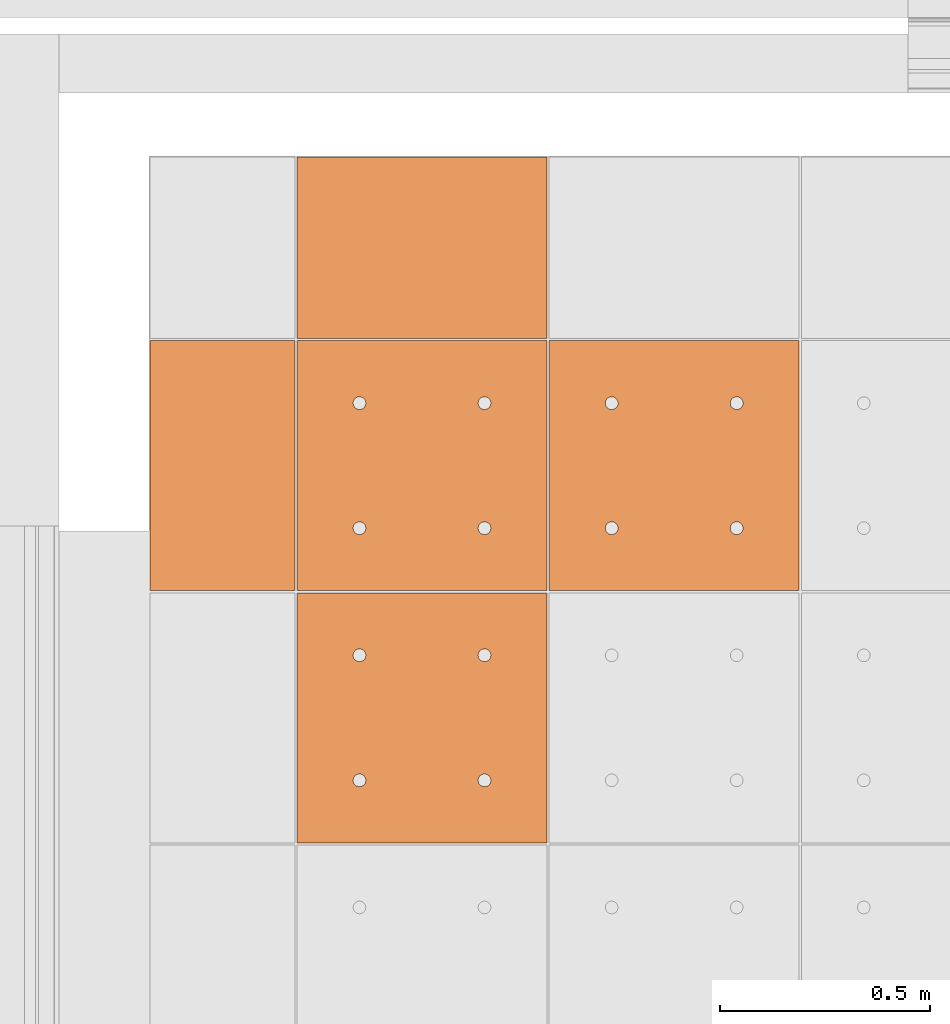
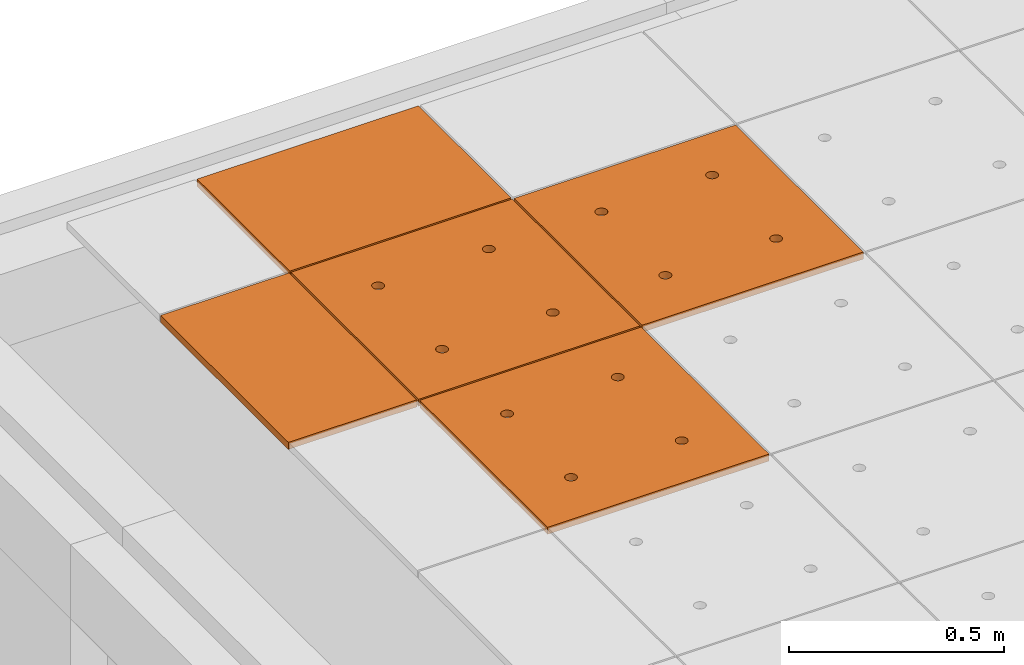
# One storey, part 248 of 338: 5 proxies, 1 element without a shape of its own.
"""IFC2X3 building model written with IfcOpenShell, lengths in millimetres."""

import ifcopenshell
import ifcopenshell.guid

model = None  # the IFC model being written
_history = None  # IfcOwnerHistory: only IFC2X3 demands one
_inside = {}  # id of a spatial element -> (the spatial element, [elements in it])
_under = {}  # id of a project, library or spatial element -> (it, [spatial elements below it])
_declared = {}  # id of a project -> (the project, [libraries it declares])
_typed = {}  # id of a type object -> (the type object, [elements of that type])
_made_of = {}  # id of a material, layer set ... -> (it, [elements and type objects made of it])


def new_model(schema):
    """Start an empty IFC model of exactly this schema.

    Asked for "IFC4X3", IfcOpenShell would pick the latest addendum, in which some entities
    have other attributes; the version numbers below select the first issue.
    IFC2X3 requires an IfcOwnerHistory on every rooted entity: one is made here for all.
    """
    global model, _history
    if schema == "IFC4X3":
        model = ifcopenshell.file(schema_version=(4, 3, 0, 0))
    else:
        model = ifcopenshell.file(schema=schema)
    _inside.clear()
    _under.clear()
    _declared.clear()
    _typed.clear()
    _made_of.clear()
    _history = None
    if model.schema == "IFC2X3":
        org = make("IfcOrganization", Name="unknown")
        user = make(
            "IfcPersonAndOrganization",
            ThePerson=make("IfcPerson", FamilyName="unknown"),
            TheOrganization=org,
        )
        app = make(
            "IfcApplication",
            ApplicationDeveloper=org,
            Version="unknown",
            ApplicationFullName="unknown",
            ApplicationIdentifier="unknown",
        )
        _history = make(
            "IfcOwnerHistory",
            OwningUser=user,
            OwningApplication=app,
            ChangeAction="ADDED",
            CreationDate=0,
        )
    return model


def make(cls, **values):
    """One entity of the class cls with the attributes given. An attribute that is None is left unset."""
    return model.create_entity(
        cls, **{name: value for name, value in values.items() if value is not None}
    )


def entity(cls, *values):
    """Any entity or typed value of the class cls, its attributes in the order of the schema. None: left unset."""
    e = model.create_entity(cls)
    for i, value in enumerate(values):
        if value is not None:
            e[i] = value
    return e


def rooted(cls, **values):
    """An entity with a GlobalId (a new one), such as an element, a storey or a relation."""
    return make(cls, GlobalId=ifcopenshell.guid.new(), OwnerHistory=_history, **values)


def si_unit(unit_type, name, prefix=None):
    """IfcSIUnit, for example si_unit("LENGTHUNIT", "METRE", prefix="MILLI")."""
    return make("IfcSIUnit", UnitType=unit_type, Prefix=prefix, Name=name)


def converted_unit(unit_type, name, factor, base, dimensions=None, offset=None):
    """IfcConversionBasedUnit, such as the inch: factor (a typed value) times the base unit."""
    return make(
        "IfcConversionBasedUnit"
        if offset is None
        else "IfcConversionBasedUnitWithOffset",
        ConversionOffset=offset,
        Dimensions=None
        if dimensions is None
        else entity("IfcDimensionalExponents", *dimensions),
        UnitType=unit_type,
        Name=name,
        ConversionFactor=make(
            "IfcMeasureWithUnit", ValueComponent=factor, UnitComponent=base
        ),
    )


def derived_unit(unit_type, elements):
    """IfcDerivedUnit: a product of units, each with its exponent."""
    return make(
        "IfcDerivedUnit",
        Elements=[
            make("IfcDerivedUnitElement", Unit=unit, Exponent=power)
            for unit, power in elements
        ],
        UnitType=unit_type,
    )


def money_unit(currency):
    """IfcMonetaryUnit."""
    return make("IfcMonetaryUnit", Currency=currency)


def assignment(units):
    """IfcUnitAssignment: the units of a project."""
    return None if units is None else make("IfcUnitAssignment", Units=units)


def point(xyz):
    """IfcCartesianPoint."""
    return None if xyz is None else make("IfcCartesianPoint", Coordinates=xyz)


def direction(xyz):
    """IfcDirection."""
    return None if xyz is None else make("IfcDirection", DirectionRatios=xyz)


def frame(location, z_axis=None, x_axis=None):
    """IfcAxis2Placement3D, a coordinate frame: its origin and axes. An axis left out is left unset."""
    return make(
        "IfcAxis2Placement3D",
        Location=point(location),
        Axis=direction(z_axis),
        RefDirection=direction(x_axis),
    )


def origin_with_axes():
    """The frame at (0, 0, 0) with the z axis (0, 0, 1) and the x axis (1, 0, 0) written out."""
    return frame((0.0, 0.0, 0.0), z_axis=(0.0, 0.0, 1.0), x_axis=(1.0, 0.0, 0.0))


def place(relative_to, where):
    """IfcLocalPlacement: puts the frame where relative to a parent placement (None: the world)."""
    return make(
        "IfcLocalPlacement", PlacementRelTo=relative_to, RelativePlacement=where
    )


def context(
    kind, dimensions, precision=None, world=None, true_north=None, identifier=None
):
    """IfcGeometricRepresentationContext, for example the 3D "Model" context."""
    return make(
        "IfcGeometricRepresentationContext",
        ContextIdentifier=identifier,
        ContextType=kind,
        CoordinateSpaceDimension=dimensions,
        Precision=precision,
        WorldCoordinateSystem=world,
        TrueNorth=true_north,
    )


def subcontext(parent, identifier, kind, view, scale=None):
    """IfcGeometricRepresentationSubContext, for example "Body" below "Model"."""
    return make(
        "IfcGeometricRepresentationSubContext",
        ContextIdentifier=identifier,
        ContextType=kind,
        ParentContext=parent,
        TargetScale=scale,
        TargetView=view,
    )


def project(units=None, contexts=None):
    """IfcProject with its units and contexts."""
    return rooted(
        "IfcProject",
        Name="project",
        RepresentationContexts=contexts,
        UnitsInContext=assignment(units),
    )


def spatial(cls, under=None, at=None, **own):
    """A site, building, storey or space (cls), placed at a placement, below another one or the project."""
    s = rooted(cls, ObjectPlacement=at, **own)
    if under is not None:
        _under.setdefault(under.id(), (under, []))[1].append(s)
    return s


def faces_of(points, faces, orient=None, outer=None):
    """IfcFace entities. A face is a list of loops; a loop is a list of indices into points, from 0.

    orient and outer hold one flag for each loop. By default every Orientation is true, the
    first loop of a face is its IfcFaceOuterBound and the others are IfcFaceBound.
    """
    made = []
    for i, loops in enumerate(faces):
        bounds = []
        for j, loop in enumerate(loops):
            is_outer = j == 0 if outer is None else outer[i][j]
            bounds.append(
                make(
                    "IfcFaceOuterBound" if is_outer else "IfcFaceBound",
                    Bound=make("IfcPolyLoop", Polygon=[points[k] for k in loop]),
                    Orientation=True if orient is None else orient[i][j],
                )
            )
        made.append(make("IfcFace", Bounds=bounds))
    return made


def faceted_brep(points, faces, orient=None, outer=None, voids=None):
    """IfcFacetedBrep: a solid bounded by flat faces; with voids (closed shells), ...WithVoids."""
    shared = [point(p) for p in points]
    hull = make("IfcClosedShell", CfsFaces=faces_of(shared, faces, orient, outer))
    if voids is None:
        return make("IfcFacetedBrep", Outer=hull)
    return make(
        "IfcFacetedBrepWithVoids",
        Outer=hull,
        Voids=[
            make(cls, CfsFaces=faces_of(shared, fs, o, b)) for cls, fs, o, b in voids
        ],
    )


def shape(context_of_items, identifier, shape_type, items):
    """IfcShapeRepresentation: the items that make up one representation, for example the "Body"."""
    return make(
        "IfcShapeRepresentation",
        ContextOfItems=context_of_items,
        RepresentationIdentifier=identifier,
        RepresentationType=shape_type,
        Items=items,
    )


def source(mapping_origin, context_of_items, identifier, shape_type, items):
    """IfcRepresentationMap: a shape defined once, which mapped items show again and again."""
    return make(
        "IfcRepresentationMap",
        MappingOrigin=mapping_origin,
        MappedRepresentation=shape(context_of_items, identifier, shape_type, items),
    )


def transform(
    local_origin,
    x_axis=None,
    y_axis=None,
    z_axis=None,
    scale=None,
    scale2=None,
    scale3=None,
    uniform=True,
):
    """IfcCartesianTransformationOperator3D, or its non-uniform kind. x_axis, y_axis, z_axis: its Axis1, 2, 3."""
    if uniform:
        return make(
            "IfcCartesianTransformationOperator3D",
            Axis1=direction(x_axis),
            Axis2=direction(y_axis),
            LocalOrigin=point(local_origin),
            Scale=scale,
            Axis3=direction(z_axis),
        )
    return make(
        "IfcCartesianTransformationOperator3DnonUniform",
        Axis1=direction(x_axis),
        Axis2=direction(y_axis),
        LocalOrigin=point(local_origin),
        Scale=scale,
        Axis3=direction(z_axis),
        Scale2=scale2,
        Scale3=scale3,
    )


def mapped(mapping_source, mapping_target):
    """IfcMappedItem: shows the shape of a source again, moved by a transform."""
    return make(
        "IfcMappedItem", MappingSource=mapping_source, MappingTarget=mapping_target
    )


def material(Name=None, Category=None):
    """IfcMaterial."""
    return make("IfcMaterial", Name=Name, Category=Category)


def made_of(thing, what):
    """Note that an element or type object is made of a material, layer set ...; save() writes the relation."""
    if what is not None:
        _made_of.setdefault(what.id(), (what, []))[1].append(thing)
    return thing


def type_object(cls, material=None, **own):
    """A type object (cls), such as IfcWallType, which elements share."""
    return made_of(rooted(cls, **own), material)


def type_shapes(of_type, sources):
    """Give a type object the sources (RepresentationMaps) that its elements show as mapped items."""
    of_type.RepresentationMaps = sources


def element(
    cls,
    number,
    at=None,
    inside=None,
    cuts=None,
    type_object=None,
    material=None,
    context=None,
    identifier="Body",
    shape_type=None,
    held_by="IfcProductDefinitionShape",
    body=None,
    shapes=None,
    **own,
):
    """One element of the class cls, such as IfcWall. Its Tag is "e" and its number.

    at: its placement. inside: the storey or other place that contains it. cuts: it is an
    opening in that element (IfcRelVoidsElement). A single representation is given by context,
    identifier, shape_type and body (its items); several are given by shapes. held_by: the class
    of the entity that holds the representations. save() writes the other relations.
    """
    e = rooted(cls, Tag="e%d" % number, ObjectPlacement=at, **own)
    if body is not None:
        shapes = [shape(context, identifier, shape_type, body)]
    if shapes is not None:
        e.Representation = make(held_by, Representations=shapes)
    if inside is not None:
        _inside.setdefault(inside.id(), (inside, []))[1].append(e)
    if cuts is not None:
        rooted(
            "IfcRelVoidsElement", RelatingBuildingElement=cuts, RelatedOpeningElement=e
        )
    if type_object is not None:
        _typed.setdefault(type_object.id(), (type_object, []))[1].append(e)
    return made_of(e, material)


def aggregate(whole, parts):
    """IfcRelAggregates: a whole, such as a stair, and the parts it consists of."""
    return rooted("IfcRelAggregates", RelatingObject=whole, RelatedObjects=parts)


def save(model, path):
    """Write the relations noted so far, then the file.

    IfcRelAggregates (storeys below a building ...), IfcRelContainedInSpatialStructure (elements
    in a storey), IfcRelDefinesByType, IfcRelAssociatesMaterial and IfcRelDeclares: one each for
    every whole, place, type object, material and project.
    """
    for whole, parts in _under.values():
        aggregate(whole, parts)
    for where, things in _inside.values():
        rooted(
            "IfcRelContainedInSpatialStructure",
            RelatedElements=things,
            RelatingStructure=where,
        )
    for kind, things in _typed.values():
        rooted("IfcRelDefinesByType", RelatedObjects=things, RelatingType=kind)
    for what, things in _made_of.values():
        rooted("IfcRelAssociatesMaterial", RelatedObjects=things, RelatingMaterial=what)
    for by, libraries in _declared.values():
        rooted("IfcRelDeclares", RelatingContext=by, RelatedDefinitions=libraries)
    model.write(path)


model = new_model("IFC2X3")

# Units and contexts
model_context = context("Model", 3, precision=0.01, world=origin_with_axes(), true_north=direction((0.0, 1.0)))
plan_context = context("Plan", 3, precision=0.01, world=origin_with_axes(), true_north=direction((0.0, 1.0)))
body_context = subcontext(model_context, "Body", "Model", "MODEL_VIEW")
ifc_project = project(units=[si_unit("LENGTHUNIT", "METRE", prefix="MILLI"), si_unit("AREAUNIT", "SQUARE_METRE"), si_unit("VOLUMEUNIT", "CUBIC_METRE"), converted_unit("PLANEANGLEUNIT", "DEGREE", entity("IfcPlaneAngleMeasure", 0.0174532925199), si_unit("PLANEANGLEUNIT", "RADIAN"), dimensions=[0, 0, 0, 0, 0, 0, 0]), money_unit("EUR"), converted_unit("TIMEUNIT", "Year", entity("IfcTimeMeasure", 31556926.0), si_unit("TIMEUNIT", "SECOND"), dimensions=[0, 0, 1, 0, 0, 0, 0]), si_unit("MASSUNIT", "GRAM", prefix="KILO"), si_unit("THERMODYNAMICTEMPERATUREUNIT", "DEGREE_CELSIUS"), si_unit("LUMINOUSINTENSITYUNIT", "LUMEN"), si_unit("ENERGYUNIT", "JOULE", prefix="MEGA"), derived_unit("THERMALCONDUCTANCEUNIT", [(si_unit("POWERUNIT", "WATT"), 1), (si_unit("LENGTHUNIT", "METRE"), -1), (si_unit("THERMODYNAMICTEMPERATUREUNIT", "KELVIN"), -1)]), derived_unit("SPECIFICHEATCAPACITYUNIT", [(si_unit("ENERGYUNIT", "JOULE"), 1), (si_unit("MASSUNIT", "GRAM", prefix="KILO"), -1), (si_unit("THERMODYNAMICTEMPERATUREUNIT", "KELVIN"), -1)]), derived_unit("MASSDENSITYUNIT", [(si_unit("MASSUNIT", "GRAM", prefix="KILO"), 1), (si_unit("VOLUMEUNIT", "CUBIC_METRE"), -1)])], contexts=[model_context, plan_context])

# Site, building, storey
site_placement = place(None, origin_with_axes())
site = spatial("IfcSite", under=ifc_project, at=site_placement, Name="Fortuinstraat Woensdrecht", CompositionType="ELEMENT")
building_placement = place(site_placement, origin_with_axes())
building = spatial("IfcBuilding", under=site, at=building_placement, Name="IKC Fortuna", CompositionType="ELEMENT")
storey_placement = place(building_placement, origin_with_axes())
storey = spatial("IfcBuildingStorey", under=building, at=storey_placement, Name="00 begane grond", CompositionType="ELEMENT", Elevation=0.0)

# Covering, proxies
covering_type = type_object("IfcCoveringType", Name="Curtain Wall Type", PredefinedType="CEILING")
covering_placement = place(storey_placement, frame((15059.4416165, 34009.703821, 3210.0), z_axis=(0.0, 0.0, 1.0), x_axis=(1.0, 0.0, 0.0)))
covering = element("IfcCovering", 1, at=covering_placement, inside=storey, type_object=covering_type, Name="45_Plafondafwerking_P01", PredefinedType="CEILING")
ifc_material = material(Name="Gipsplaat")
building_element_proxy_type_1 = type_object("IfcBuildingElementProxyType", Name="Distinct Panel 600 x 600 x 20", PredefinedType="NOTDEFINED")
shared_shape_1 = source(origin_with_axes(), body_context, "Body", "Brep", [
    faceted_brep([(2.49999999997, 2.49999999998, -10.0), (300.0, 2.49999999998, -10.0), (300.0, 2.49999999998, 10.0), (2.49999999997, 2.49999999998, 10.0), (2.49999999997, 300.0, -10.0), (2.49999999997, 597.5, -10.0), (300.0, 597.5, -10.0), (597.5, 597.5, -10.0), (597.5, 300.0, -10.0), (597.5, 2.49999999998, -10.0), (166.25, 450.06232995, -10.0), (165.79423259, 452.64711538, -10.0), (164.896546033, 455.11348892, -10.0), (163.58421608, 457.38651108, -10.0), (161.897117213, 459.39711721, -10.0), (159.886511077, 461.08421608, -10.0), (157.613488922, 462.39654603, -10.0), (155.147115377, 463.29423259, -10.0), (152.562329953, 463.75, -10.0), (149.937670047, 463.75, -10.0), (147.352884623, 463.29423259, -10.0), (144.886511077, 462.39654603, -10.0), (142.613488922, 461.08421608, -10.0), (140.602882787, 459.39711721, -10.0), (138.91578392, 457.38651108, -10.0), (137.603453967, 455.11348892, -10.0), (136.705767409, 452.64711538, -10.0), (136.25, 450.06232995, -10.0), (136.25, 448.75, -10.0), (136.25, 447.43767005, -10.0), (136.705767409, 444.85288462, -10.0), (137.603453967, 442.38651108, -10.0), (138.91578392, 440.11348892, -10.0), (140.602882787, 438.10288279, -10.0), (142.613488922, 436.41578392, -10.0), (144.886511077, 435.10345397, -10.0), (147.352884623, 434.20576741, -10.0), (149.937670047, 433.75, -10.0), (152.562329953, 433.75, -10.0), (155.147115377, 434.20576741, -10.0), (157.613488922, 435.10345397, -10.0), (159.886511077, 436.41578392, -10.0), (161.897117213, 438.10288279, -10.0), (163.58421608, 440.11348892, -10.0), (164.896546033, 442.38651108, -10.0), (165.79423259, 444.85288462, -10.0), (166.25, 447.43767005, -10.0), (463.75, 450.06232995, -10.0), (463.29423259, 452.64711538, -10.0), (462.396546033, 455.11348892, -10.0), (461.08421608, 457.38651108, -10.0), (459.397117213, 459.39711721, -10.0), (457.386511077, 461.08421608, -10.0), (455.113488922, 462.39654603, -10.0), (452.647115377, 463.29423259, -10.0), (450.062329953, 463.75, -10.0), (447.437670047, 463.75, -10.0), (444.852884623, 463.29423259, -10.0), (442.386511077, 462.39654603, -10.0), (440.113488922, 461.08421608, -10.0), (438.102882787, 459.39711721, -10.0), (436.41578392, 457.38651108, -10.0), (435.103453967, 455.11348892, -10.0), (434.205767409, 452.64711538, -10.0), (433.75, 450.06232995, -10.0), (433.75, 448.75, -10.0), (433.75, 447.43767005, -10.0), (434.205767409, 444.85288462, -10.0), (435.103453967, 442.38651108, -10.0), (436.41578392, 440.11348892, -10.0), (438.102882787, 438.10288279, -10.0), (440.113488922, 436.41578392, -10.0), (442.386511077, 435.10345397, -10.0), (444.852884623, 434.20576741, -10.0), (447.437670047, 433.75, -10.0), (450.062329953, 433.75, -10.0), (452.647115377, 434.20576741, -10.0), (455.113488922, 435.10345397, -10.0), (457.386511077, 436.41578392, -10.0), (459.397117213, 438.10288279, -10.0), (461.08421608, 440.11348892, -10.0), (462.396546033, 442.38651108, -10.0), (463.29423259, 444.85288462, -10.0), (463.75, 447.43767005, -10.0), (463.75, 152.56232995, -10.0), (463.29423259, 155.14711538, -10.0), (462.396546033, 157.61348892, -10.0), (461.08421608, 159.88651108, -10.0), (459.397117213, 161.89711721, -10.0), (457.386511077, 163.58421608, -10.0), (455.113488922, 164.89654603, -10.0), (452.647115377, 165.79423259, -10.0), (450.062329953, 166.25, -10.0), (447.437670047, 166.25, -10.0), (444.852884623, 165.79423259, -10.0), (442.386511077, 164.89654603, -10.0), (440.113488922, 163.58421608, -10.0), (438.102882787, 161.89711721, -10.0), (436.41578392, 159.88651108, -10.0), (435.103453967, 157.61348892, -10.0), (434.205767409, 155.14711538, -10.0), (433.75, 152.56232995, -10.0), (433.75, 151.25, -10.0), (433.75, 149.93767005, -10.0), (434.205767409, 147.35288462, -10.0), (435.103453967, 144.88651108, -10.0), (436.41578392, 142.61348892, -10.0), (438.102882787, 140.60288279, -10.0), (440.113488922, 138.91578392, -10.0), (442.386511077, 137.60345397, -10.0), (444.852884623, 136.70576741, -10.0), (447.437670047, 136.25, -10.0), (450.062329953, 136.25, -10.0), (452.647115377, 136.70576741, -10.0), (455.113488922, 137.60345397, -10.0), (457.386511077, 138.91578392, -10.0), (459.397117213, 140.60288279, -10.0), (461.08421608, 142.61348892, -10.0), (462.396546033, 144.88651108, -10.0), (463.29423259, 147.35288462, -10.0), (463.75, 149.93767005, -10.0), (166.25, 152.56232995, -10.0), (165.79423259, 155.14711538, -10.0), (164.896546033, 157.61348892, -10.0), (163.58421608, 159.88651108, -10.0), (161.897117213, 161.89711721, -10.0), (159.886511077, 163.58421608, -10.0), (157.613488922, 164.89654603, -10.0), (155.147115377, 165.79423259, -10.0), (152.562329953, 166.25, -10.0), (149.937670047, 166.25, -10.0), (147.352884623, 165.79423259, -10.0), (144.886511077, 164.89654603, -10.0), (142.613488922, 163.58421608, -10.0), (140.602882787, 161.89711721, -10.0), (138.91578392, 159.88651108, -10.0), (137.603453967, 157.61348892, -10.0), (136.705767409, 155.14711538, -10.0), (136.25, 152.56232995, -10.0), (136.25, 151.25, -10.0), (136.25, 149.93767005, -10.0), (136.705767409, 147.35288462, -10.0), (137.603453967, 144.88651108, -10.0), (138.91578392, 142.61348892, -10.0), (140.602882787, 140.60288279, -10.0), (142.613488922, 138.91578392, -10.0), (144.886511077, 137.60345397, -10.0), (147.352884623, 136.70576741, -10.0), (149.937670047, 136.25, -10.0), (152.562329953, 136.25, -10.0), (155.147115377, 136.70576741, -10.0), (157.613488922, 137.60345397, -10.0), (159.886511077, 138.91578392, -10.0), (161.897117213, 140.60288279, -10.0), (163.58421608, 142.61348892, -10.0), (164.896546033, 144.88651108, -10.0), (165.79423259, 147.35288462, -10.0), (166.25, 149.93767005, -10.0), (597.5, 2.49999999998, 10.0), (597.5, 300.0, 10.0), (597.5, 597.5, 10.0), (300.0, 597.5, 10.0), (2.49999999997, 597.5, 10.0), (2.49999999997, 300.0, 10.0), (166.25, 450.06232995, 10.0), (166.25, 447.43767005, 10.0), (165.79423259, 444.85288462, 10.0), (164.896546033, 442.38651108, 10.0), (163.58421608, 440.11348892, 10.0), (161.897117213, 438.10288279, 10.0), (159.886511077, 436.41578392, 10.0), (157.613488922, 435.10345397, 10.0), (155.147115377, 434.20576741, 10.0), (152.562329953, 433.75, 10.0), (149.937670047, 433.75, 10.0), (147.352884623, 434.20576741, 10.0), (144.886511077, 435.10345397, 10.0), (142.613488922, 436.41578392, 10.0), (140.602882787, 438.10288279, 10.0), (138.91578392, 440.11348892, 10.0), (137.603453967, 442.38651108, 10.0), (136.705767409, 444.85288462, 10.0), (136.25, 447.43767005, 10.0), (136.25, 448.75, 10.0), (136.25, 450.06232995, 10.0), (136.705767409, 452.64711538, 10.0), (137.603453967, 455.11348892, 10.0), (138.91578392, 457.38651108, 10.0), (140.602882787, 459.39711721, 10.0), (142.613488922, 461.08421608, 10.0), (144.886511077, 462.39654603, 10.0), (147.352884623, 463.29423259, 10.0), (149.937670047, 463.75, 10.0), (152.562329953, 463.75, 10.0), (155.147115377, 463.29423259, 10.0), (157.613488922, 462.39654603, 10.0), (159.886511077, 461.08421608, 10.0), (161.897117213, 459.39711721, 10.0), (163.58421608, 457.38651108, 10.0), (164.896546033, 455.11348892, 10.0), (165.79423259, 452.64711538, 10.0), (463.75, 450.06232995, 10.0), (463.75, 447.43767005, 10.0), (463.29423259, 444.85288462, 10.0), (462.396546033, 442.38651108, 10.0), (461.08421608, 440.11348892, 10.0), (459.397117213, 438.10288279, 10.0), (457.386511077, 436.41578392, 10.0), (455.113488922, 435.10345397, 10.0), (452.647115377, 434.20576741, 10.0), (450.062329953, 433.75, 10.0), (447.437670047, 433.75, 10.0), (444.852884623, 434.20576741, 10.0), (442.386511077, 435.10345397, 10.0), (440.113488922, 436.41578392, 10.0), (438.102882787, 438.10288279, 10.0), (436.41578392, 440.11348892, 10.0), (435.103453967, 442.38651108, 10.0), (434.205767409, 444.85288462, 10.0), (433.75, 447.43767005, 10.0), (433.75, 448.75, 10.0), (433.75, 450.06232995, 10.0), (434.205767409, 452.64711538, 10.0), (435.103453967, 455.11348892, 10.0), (436.41578392, 457.38651108, 10.0), (438.102882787, 459.39711721, 10.0), (440.113488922, 461.08421608, 10.0), (442.386511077, 462.39654603, 10.0), (444.852884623, 463.29423259, 10.0), (447.437670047, 463.75, 10.0), (450.062329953, 463.75, 10.0), (452.647115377, 463.29423259, 10.0), (455.113488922, 462.39654603, 10.0), (457.386511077, 461.08421608, 10.0), (459.397117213, 459.39711721, 10.0), (461.08421608, 457.38651108, 10.0), (462.396546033, 455.11348892, 10.0), (463.29423259, 452.64711538, 10.0), (463.75, 152.56232995, 10.0), (463.75, 149.93767005, 10.0), (463.29423259, 147.35288462, 10.0), (462.396546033, 144.88651108, 10.0), (461.08421608, 142.61348892, 10.0), (459.397117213, 140.60288279, 10.0), (457.386511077, 138.91578392, 10.0), (455.113488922, 137.60345397, 10.0), (452.647115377, 136.70576741, 10.0), (450.062329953, 136.25, 10.0), (447.437670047, 136.25, 10.0), (444.852884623, 136.70576741, 10.0), (442.386511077, 137.60345397, 10.0), (440.113488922, 138.91578392, 10.0), (438.102882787, 140.60288279, 10.0), (436.41578392, 142.61348892, 10.0), (435.103453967, 144.88651108, 10.0), (434.205767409, 147.35288462, 10.0), (433.75, 149.93767005, 10.0), (433.75, 151.25, 10.0), (433.75, 152.56232995, 10.0), (434.205767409, 155.14711538, 10.0), (435.103453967, 157.61348892, 10.0), (436.41578392, 159.88651108, 10.0), (438.102882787, 161.89711721, 10.0), (440.113488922, 163.58421608, 10.0), (442.386511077, 164.89654603, 10.0), (444.852884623, 165.79423259, 10.0), (447.437670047, 166.25, 10.0), (450.062329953, 166.25, 10.0), (452.647115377, 165.79423259, 10.0), (455.113488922, 164.89654603, 10.0), (457.386511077, 163.58421608, 10.0), (459.397117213, 161.89711721, 10.0), (461.08421608, 159.88651108, 10.0), (462.396546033, 157.61348892, 10.0), (463.29423259, 155.14711538, 10.0), (166.25, 152.56232995, 10.0), (166.25, 149.93767005, 10.0), (165.79423259, 147.35288462, 10.0), (164.896546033, 144.88651108, 10.0), (163.58421608, 142.61348892, 10.0), (161.897117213, 140.60288279, 10.0), (159.886511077, 138.91578392, 10.0), (157.613488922, 137.60345397, 10.0), (155.147115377, 136.70576741, 10.0), (152.562329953, 136.25, 10.0), (149.937670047, 136.25, 10.0), (147.352884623, 136.70576741, 10.0), (144.886511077, 137.60345397, 10.0), (142.613488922, 138.91578392, 10.0), (140.602882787, 140.60288279, 10.0), (138.91578392, 142.61348892, 10.0), (137.603453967, 144.88651108, 10.0), (136.705767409, 147.35288462, 10.0), (136.25, 149.93767005, 10.0), (136.25, 151.25, 10.0), (136.25, 152.56232995, 10.0), (136.705767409, 155.14711538, 10.0), (137.603453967, 157.61348892, 10.0), (138.91578392, 159.88651108, 10.0), (140.602882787, 161.89711721, 10.0), (142.613488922, 163.58421608, 10.0), (144.886511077, 164.89654603, 10.0), (147.352884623, 165.79423259, 10.0), (149.937670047, 166.25, 10.0), (152.562329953, 166.25, 10.0), (155.147115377, 165.79423259, 10.0), (157.613488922, 164.89654603, 10.0), (159.886511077, 163.58421608, 10.0), (161.897117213, 161.89711721, 10.0), (163.58421608, 159.88651108, 10.0), (164.896546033, 157.61348892, 10.0), (165.79423259, 155.14711538, 10.0)], [[[0, 1, 2, 3]], [[0, 4, 5, 6, 7, 8, 9, 1], [10, 11, 12, 13, 14, 15, 16, 17, 18, 19, 20, 21, 22, 23, 24, 25, 26, 27, 28, 29, 30, 31, 32, 33, 34, 35, 36, 37, 38, 39, 40, 41, 42, 43, 44, 45, 46], [47, 48, 49, 50, 51, 52, 53, 54, 55, 56, 57, 58, 59, 60, 61, 62, 63, 64, 65, 66, 67, 68, 69, 70, 71, 72, 73, 74, 75, 76, 77, 78, 79, 80, 81, 82, 83], [84, 85, 86, 87, 88, 89, 90, 91, 92, 93, 94, 95, 96, 97, 98, 99, 100, 101, 102, 103, 104, 105, 106, 107, 108, 109, 110, 111, 112, 113, 114, 115, 116, 117, 118, 119, 120], [121, 122, 123, 124, 125, 126, 127, 128, 129, 130, 131, 132, 133, 134, 135, 136, 137, 138, 139, 140, 141, 142, 143, 144, 145, 146, 147, 148, 149, 150, 151, 152, 153, 154, 155, 156, 157]], [[1, 9, 158, 2]], [[3, 2, 158, 159, 160, 161, 162, 163], [164, 165, 166, 167, 168, 169, 170, 171, 172, 173, 174, 175, 176, 177, 178, 179, 180, 181, 182, 183, 184, 185, 186, 187, 188, 189, 190, 191, 192, 193, 194, 195, 196, 197, 198, 199, 200], [201, 202, 203, 204, 205, 206, 207, 208, 209, 210, 211, 212, 213, 214, 215, 216, 217, 218, 219, 220, 221, 222, 223, 224, 225, 226, 227, 228, 229, 230, 231, 232, 233, 234, 235, 236, 237], [238, 239, 240, 241, 242, 243, 244, 245, 246, 247, 248, 249, 250, 251, 252, 253, 254, 255, 256, 257, 258, 259, 260, 261, 262, 263, 264, 265, 266, 267, 268, 269, 270, 271, 272, 273, 274], [275, 276, 277, 278, 279, 280, 281, 282, 283, 284, 285, 286, 287, 288, 289, 290, 291, 292, 293, 294, 295, 296, 297, 298, 299, 300, 301, 302, 303, 304, 305, 306, 307, 308, 309, 310, 311]], [[4, 0, 3, 163]], [[5, 4, 163, 162]], [[6, 5, 162, 161]], [[7, 6, 161, 160]], [[8, 7, 160, 159]], [[9, 8, 159, 158]], [[11, 10, 164, 200]], [[12, 11, 200, 199]], [[13, 12, 199, 198]], [[14, 13, 198, 197]], [[15, 14, 197, 196]], [[16, 15, 196, 195]], [[17, 16, 195, 194]], [[18, 17, 194, 193]], [[19, 18, 193, 192]], [[20, 19, 192, 191]], [[21, 20, 191, 190]], [[22, 21, 190, 189]], [[23, 22, 189, 188]], [[24, 23, 188, 187]], [[25, 24, 187, 186]], [[26, 25, 186, 185]], [[27, 26, 185, 184]], [[28, 27, 184, 183]], [[29, 28, 183, 182]], [[30, 29, 182, 181]], [[31, 30, 181, 180]], [[32, 31, 180, 179]], [[33, 32, 179, 178]], [[34, 33, 178, 177]], [[35, 34, 177, 176]], [[36, 35, 176, 175]], [[37, 36, 175, 174]], [[38, 37, 174, 173]], [[39, 38, 173, 172]], [[40, 39, 172, 171]], [[41, 40, 171, 170]], [[42, 41, 170, 169]], [[43, 42, 169, 168]], [[44, 43, 168, 167]], [[45, 44, 167, 166]], [[46, 45, 166, 165]], [[10, 46, 165, 164]], [[48, 47, 201, 237]], [[49, 48, 237, 236]], [[50, 49, 236, 235]], [[51, 50, 235, 234]], [[52, 51, 234, 233]], [[53, 52, 233, 232]], [[54, 53, 232, 231]], [[55, 54, 231, 230]], [[56, 55, 230, 229]], [[57, 56, 229, 228]], [[58, 57, 228, 227]], [[59, 58, 227, 226]], [[60, 59, 226, 225]], [[61, 60, 225, 224]], [[62, 61, 224, 223]], [[63, 62, 223, 222]], [[64, 63, 222, 221]], [[65, 64, 221, 220]], [[66, 65, 220, 219]], [[67, 66, 219, 218]], [[68, 67, 218, 217]], [[69, 68, 217, 216]], [[70, 69, 216, 215]], [[71, 70, 215, 214]], [[72, 71, 214, 213]], [[73, 72, 213, 212]], [[74, 73, 212, 211]], [[75, 74, 211, 210]], [[76, 75, 210, 209]], [[77, 76, 209, 208]], [[78, 77, 208, 207]], [[79, 78, 207, 206]], [[80, 79, 206, 205]], [[81, 80, 205, 204]], [[82, 81, 204, 203]], [[83, 82, 203, 202]], [[47, 83, 202, 201]], [[85, 84, 238, 274]], [[86, 85, 274, 273]], [[87, 86, 273, 272]], [[88, 87, 272, 271]], [[89, 88, 271, 270]], [[90, 89, 270, 269]], [[91, 90, 269, 268]], [[92, 91, 268, 267]], [[93, 92, 267, 266]], [[94, 93, 266, 265]], [[95, 94, 265, 264]], [[96, 95, 264, 263]], [[97, 96, 263, 262]], [[98, 97, 262, 261]], [[99, 98, 261, 260]], [[100, 99, 260, 259]], [[101, 100, 259, 258]], [[102, 101, 258, 257]], [[103, 102, 257, 256]], [[104, 103, 256, 255]], [[105, 104, 255, 254]], [[106, 105, 254, 253]], [[107, 106, 253, 252]], [[108, 107, 252, 251]], [[109, 108, 251, 250]], [[110, 109, 250, 249]], [[111, 110, 249, 248]], [[112, 111, 248, 247]], [[113, 112, 247, 246]], [[114, 113, 246, 245]], [[115, 114, 245, 244]], [[116, 115, 244, 243]], [[117, 116, 243, 242]], [[118, 117, 242, 241]], [[119, 118, 241, 240]], [[120, 119, 240, 239]], [[84, 120, 239, 238]], [[122, 121, 275, 311]], [[123, 122, 311, 310]], [[124, 123, 310, 309]], [[125, 124, 309, 308]], [[126, 125, 308, 307]], [[127, 126, 307, 306]], [[128, 127, 306, 305]], [[129, 128, 305, 304]], [[130, 129, 304, 303]], [[131, 130, 303, 302]], [[132, 131, 302, 301]], [[133, 132, 301, 300]], [[134, 133, 300, 299]], [[135, 134, 299, 298]], [[136, 135, 298, 297]], [[137, 136, 297, 296]], [[138, 137, 296, 295]], [[139, 138, 295, 294]], [[140, 139, 294, 293]], [[141, 140, 293, 292]], [[142, 141, 292, 291]], [[143, 142, 291, 290]], [[144, 143, 290, 289]], [[145, 144, 289, 288]], [[146, 145, 288, 287]], [[147, 146, 287, 286]], [[148, 147, 286, 285]], [[149, 148, 285, 284]], [[150, 149, 284, 283]], [[151, 150, 283, 282]], [[152, 151, 282, 281]], [[153, 152, 281, 280]], [[154, 153, 280, 279]], [[155, 154, 279, 278]], [[156, 155, 278, 277]], [[157, 156, 277, 276]], [[121, 157, 276, 275]]]),
])
type_shapes(building_element_proxy_type_1, [shared_shape_1])
proxy_1_placement = place(covering_placement, frame((-600.0, 0.0, 1.95843341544e-10), z_axis=(0.0, 0.0, 1.0), x_axis=(1.0, 0.0, 0.0)))
proxy_1 = element("IfcBuildingElementProxy", 2, at=proxy_1_placement, type_object=building_element_proxy_type_1, material=ifc_material, Name="__Panel-D", context=body_context, shape_type="MappedRepresentation", body=[
    mapped(shared_shape_1, transform((300.0, 300.0, 0.0), x_axis=(-1.0, 0.0, 0.0), y_axis=(0.0, -1.0, 0.0), z_axis=(0.0, 0.0, 1.0))),
])
proxy_2_placement = place(covering_placement, frame((0.0, 600.0, 1.7630341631e-10), z_axis=(0.0, 0.0, 1.0), x_axis=(1.0, 0.0, 0.0)))
proxy_2 = element("IfcBuildingElementProxy", 3, at=proxy_2_placement, type_object=building_element_proxy_type_1, material=ifc_material, Name="__Panel-D", context=body_context, shape_type="MappedRepresentation", body=[
    mapped(shared_shape_1, transform((300.0, 300.0, 0.0), x_axis=(-1.0, 0.0, 0.0), y_axis=(0.0, -1.0, 0.0), z_axis=(0.0, 0.0, 1.0))),
])
proxy_3_placement = place(covering_placement, frame((-600.0, 600.0, 1.95843341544e-10), z_axis=(0.0, 0.0, 1.0), x_axis=(1.0, 0.0, 0.0)))
proxy_3 = element("IfcBuildingElementProxy", 4, at=proxy_3_placement, type_object=building_element_proxy_type_1, material=ifc_material, Name="__Panel-D", context=body_context, shape_type="MappedRepresentation", body=[
    mapped(shared_shape_1, transform((300.0, 300.0, 0.0), x_axis=(-1.0, 0.0, 0.0), y_axis=(0.0, -1.0, 0.0), z_axis=(0.0, 0.0, 1.0))),
])
building_element_proxy_type_2 = type_object("IfcBuildingElementProxyType", Name="Main Panel 600 x 437 x 20", PredefinedType="NOTDEFINED")
shared_shape_2 = source(origin_with_axes(), body_context, "Body", "Brep", [
    faceted_brep([(2.5, 165.907222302, -10.0), (597.5, 165.907222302, -10.0), (597.5, 165.907222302, 10.0), (2.5, 165.907222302, 10.0), (2.50000000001, 597.5, -10.0), (597.5, 597.5, -10.0), (597.5, 597.5, 10.0), (2.50000000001, 597.5, 10.0)], [[[0, 1, 2, 3]], [[0, 4, 5, 1]], [[1, 5, 6, 2]], [[3, 2, 6, 7]], [[4, 0, 3, 7]], [[5, 4, 7, 6]]]),
])
type_shapes(building_element_proxy_type_2, [shared_shape_2])
proxy_4_placement = place(covering_placement, frame((-600.0, 1118.29638989, 1.95843341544e-10), z_axis=(0.0, 0.0, 1.0), x_axis=(1.0, 0.0, 0.0)))
proxy_4 = element("IfcBuildingElementProxy", 5, at=proxy_4_placement, type_object=building_element_proxy_type_2, material=ifc_material, Name="__Panel-D", context=body_context, shape_type="MappedRepresentation", body=[
    mapped(shared_shape_2, transform((300.0, 381.703610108, 0.0), x_axis=(-1.0, 0.0, 0.0), y_axis=(0.0, -1.0, 0.0), z_axis=(0.0, 0.0, 1.0))),
])
building_element_proxy_type_3 = type_object("IfcBuildingElementProxyType", Name="Main Panel 350 x 600 x 20", PredefinedType="NOTDEFINED")
shared_shape_3 = source(origin_with_axes(), body_context, "Body", "Brep", [
    faceted_brep([(2.49999837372, 2.5, -10.0), (347.50666814, 2.49999999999, -10.0), (347.50666814, 2.49999999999, 10.0), (2.49999837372, 2.5, 10.0), (2.49999837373, 597.5, -10.0), (347.50666814, 597.5, -10.0), (347.50666814, 597.5, 10.0), (2.49999837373, 597.5, 10.0)], [[[0, 1, 2, 3]], [[0, 4, 5, 1]], [[1, 5, 6, 2]], [[3, 2, 6, 7]], [[4, 0, 3, 7]], [[5, 4, 7, 6]]]),
])
type_shapes(building_element_proxy_type_3, [shared_shape_3])
proxy_5_placement = place(covering_placement, frame((-1075.00333407, 600.0, 2.11386463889e-10), z_axis=(0.0, 0.0, 1.0), x_axis=(1.0, 0.0, 0.0)))
proxy_5 = element("IfcBuildingElementProxy", 6, at=proxy_5_placement, type_object=building_element_proxy_type_3, material=ifc_material, Name="__Panel-D", context=body_context, shape_type="MappedRepresentation", body=[
    mapped(shared_shape_3, transform((175.00333407, 300.0, 0.0), x_axis=(-1.0, 0.0, 0.0), y_axis=(0.0, -1.0, 0.0), z_axis=(0.0, 0.0, 1.0))),
])
aggregate(covering, [proxy_1, proxy_2, proxy_3, proxy_5, proxy_4])

save(model, "model.ifc")
